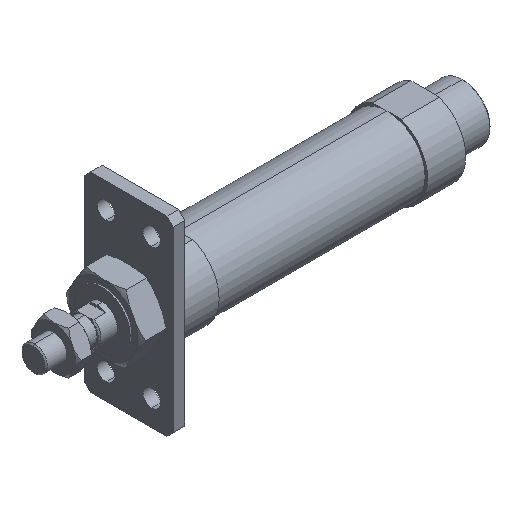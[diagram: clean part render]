
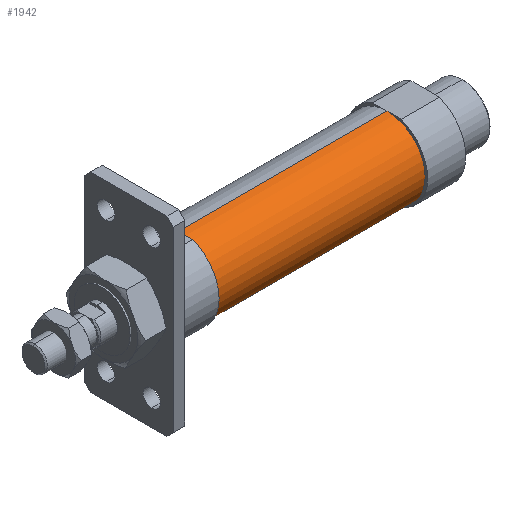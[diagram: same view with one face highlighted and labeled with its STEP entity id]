
A CAD part, isometric view. The second image highlights one B-rep face of the part: STEP entity #1942.
In plain terms, the highlighted cylindrical face has radius 15 mm (diameter 30 mm), a partial arc.
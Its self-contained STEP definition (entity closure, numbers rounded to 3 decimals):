
#27 = AXIS2_PLACEMENT_3D ( 'NONE', #2005, #2599, #3405 ) ;
#350 = VERTEX_POINT ( 'NONE', #2376 ) ;
#465 = CARTESIAN_POINT ( 'NONE',  ( 57., 0., 15. ) ) ;
#474 = VECTOR ( 'NONE', #1930, 1000. ) ;
#570 = CIRCLE ( 'NONE', #3257, 15. ) ;
#916 = ORIENTED_EDGE ( 'NONE', *, *, #1939, .T. ) ;
#1104 = CARTESIAN_POINT ( 'NONE',  ( -6.469, 0., -15. ) ) ;
#1219 = VECTOR ( 'NONE', #1654, 1000. ) ;
#1282 = ORIENTED_EDGE ( 'NONE', *, *, #2988, .T. ) ;
#1494 = DIRECTION ( 'NONE',  ( 0., 0., 1. ) ) ;
#1528 = EDGE_LOOP ( 'NONE', ( #4101, #1282, #916, #2076 ) ) ;
#1654 = DIRECTION ( 'NONE',  ( -1., 0., 0. ) ) ;
#1930 = DIRECTION ( 'NONE',  ( -1., 0., 0. ) ) ;
#1939 = EDGE_CURVE ( 'NONE', #2751, #3596, #2928, .T. ) ;
#1942 = ADVANCED_FACE ( 'NONE', ( #2729 ), #2075, .T. ) ;
#2000 = DIRECTION ( 'NONE',  ( -1., 0., 0. ) ) ;
#2005 = CARTESIAN_POINT ( 'NONE',  ( -6.469, 0., 0. ) ) ;
#2072 = CARTESIAN_POINT ( 'NONE',  ( 139., 0., 0. ) ) ;
#2075 = CYLINDRICAL_SURFACE ( 'NONE', #27, 15. ) ;
#2076 = ORIENTED_EDGE ( 'NONE', *, *, #2560, .F. ) ;
#2278 = EDGE_CURVE ( 'NONE', #350, #2628, #4012, .T. ) ;
#2376 = CARTESIAN_POINT ( 'NONE',  ( 139., 0., -15. ) ) ;
#2560 = EDGE_CURVE ( 'NONE', #2628, #3596, #3771, .T. ) ;
#2593 = DIRECTION ( 'NONE',  ( 0., 0., 1. ) ) ;
#2599 = DIRECTION ( 'NONE',  ( -1., 0., 0. ) ) ;
#2628 = VERTEX_POINT ( 'NONE', #2926 ) ;
#2729 = FACE_OUTER_BOUND ( 'NONE', #1528, .T. ) ;
#2751 = VERTEX_POINT ( 'NONE', #4076 ) ;
#2926 = CARTESIAN_POINT ( 'NONE',  ( 57., 0., -15. ) ) ;
#2928 = LINE ( 'NONE', #3211, #474 ) ;
#2988 = EDGE_CURVE ( 'NONE', #350, #2751, #570, .T. ) ;
#3211 = CARTESIAN_POINT ( 'NONE',  ( -6.469, 0., 15. ) ) ;
#3257 = AXIS2_PLACEMENT_3D ( 'NONE', #2072, #2000, #2593 ) ;
#3394 = CARTESIAN_POINT ( 'NONE',  ( 57., 0., 0. ) ) ;
#3405 = DIRECTION ( 'NONE',  ( 0., 0., 1. ) ) ;
#3596 = VERTEX_POINT ( 'NONE', #465 ) ;
#3771 = CIRCLE ( 'NONE', #3817, 15. ) ;
#3817 = AXIS2_PLACEMENT_3D ( 'NONE', #3394, #3985, #1494 ) ;
#3985 = DIRECTION ( 'NONE',  ( -1., 0., 0. ) ) ;
#4012 = LINE ( 'NONE', #1104, #1219 ) ;
#4076 = CARTESIAN_POINT ( 'NONE',  ( 139., 0., 15. ) ) ;
#4101 = ORIENTED_EDGE ( 'NONE', *, *, #2278, .F. ) ;
